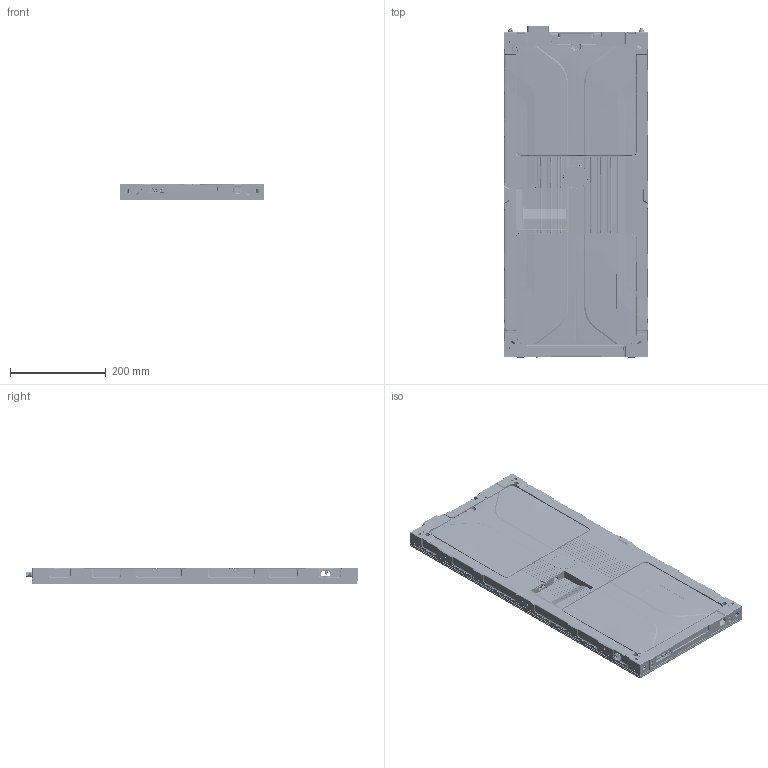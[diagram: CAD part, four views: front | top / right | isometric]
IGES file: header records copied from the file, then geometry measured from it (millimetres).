
Start section: SolidWorks IGES file using analytic representation for surfaces
Global section: file name: C:\Users\dalton.ellis\Downloads\DLSlim Outline REV B.IGS; native system: SolidWorks 2024; preprocessor: SolidWorks 2024; author: dalton.ellis; date: 250422.151922; units: millimetre
Bounding box: 302.95 x 694.2 x 35.3 mm (x, y, z)
Surface area: 1621618.8 mm2 (no closed solid volume)
Topology: 0 solids, 0 shells, 17310 faces, 173577 edges, 173090 vertices
Faces by surface type: bspline 9894, revolution 7416
